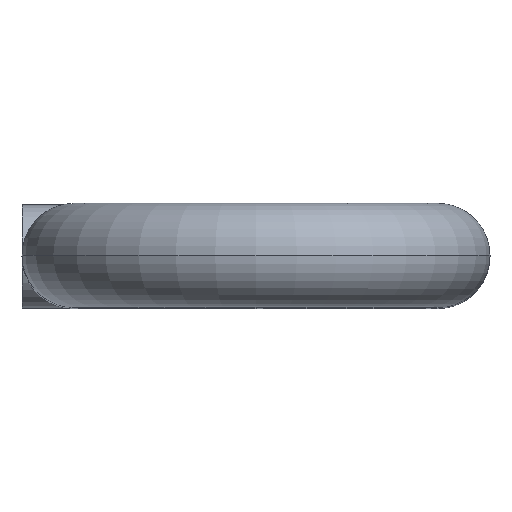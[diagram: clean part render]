
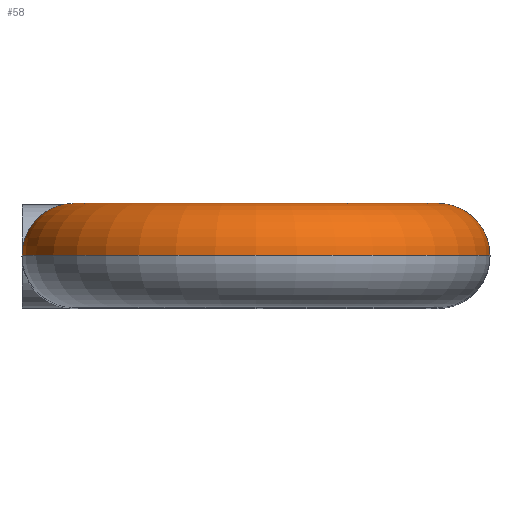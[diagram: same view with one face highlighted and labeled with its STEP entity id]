
A CAD part, top view. The second image highlights one B-rep face of the part: STEP entity #58.
In plain terms, the highlighted toroidal (fillet/blend) face has major radius 1.75 mm and minor radius 0.5 mm.
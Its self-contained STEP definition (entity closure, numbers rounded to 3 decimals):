
#58=ADVANCED_FACE('',(#79),#80,.T.);
#79=FACE_OUTER_BOUND('',#106,.T.);
#80=TOROIDAL_SURFACE('',#107,1.75,0.5);
#106=EDGE_LOOP('',(#217,#218,#219,#220,#221,#222));
#107=AXIS2_PLACEMENT_3D('',#223,#224,#225);
#217=ORIENTED_EDGE('',*,*,#256,.T.);
#218=ORIENTED_EDGE('',*,*,#274,.T.);
#219=ORIENTED_EDGE('',*,*,#270,.T.);
#220=ORIENTED_EDGE('',*,*,#259,.T.);
#221=ORIENTED_EDGE('',*,*,#268,.F.);
#222=ORIENTED_EDGE('',*,*,#275,.F.);
#223=CARTESIAN_POINT('',(165.995,18.496,20.25));
#224=DIRECTION('',(0.,1.0,0.));
#225=DIRECTION('',(1.0,0.,0.));
#256=EDGE_CURVE('',#286,#287,#288,.T.);
#259=EDGE_CURVE('',#293,#291,#294,.T.);
#268=EDGE_CURVE('',#307,#291,#309,.T.);
#270=EDGE_CURVE('',#311,#293,#312,.T.);
#274=EDGE_CURVE('',#287,#311,#316,.T.);
#275=EDGE_CURVE('',#286,#307,#317,.T.);
#286=VERTEX_POINT('',#328);
#287=VERTEX_POINT('',#329);
#288=CIRCLE('',#330,2.25);
#291=VERTEX_POINT('',#333);
#293=VERTEX_POINT('',#335);
#294=CIRCLE('',#336,1.25);
#307=VERTEX_POINT('',#352);
#309=CIRCLE('',#355,0.5);
#311=VERTEX_POINT('',#358);
#312=CIRCLE('',#359,0.5);
#316=CIRCLE('',#364,0.5);
#317=CIRCLE('',#365,0.5);
#328=CARTESIAN_POINT('',(163.745,18.496,20.25));
#329=CARTESIAN_POINT('',(168.245,18.496,20.25));
#330=AXIS2_PLACEMENT_3D('',#380,#381,#382);
#333=CARTESIAN_POINT('',(164.745,18.496,20.25));
#335=CARTESIAN_POINT('',(167.245,18.496,20.25));
#336=AXIS2_PLACEMENT_3D('',#389,#390,#391);
#352=CARTESIAN_POINT('',(164.245,18.996,20.25));
#355=AXIS2_PLACEMENT_3D('',#408,#409,#410);
#358=CARTESIAN_POINT('',(167.745,18.996,20.25));
#359=AXIS2_PLACEMENT_3D('',#412,#413,#414);
#364=AXIS2_PLACEMENT_3D('',#422,#423,#424);
#365=AXIS2_PLACEMENT_3D('',#425,#426,#427);
#380=CARTESIAN_POINT('',(165.995,18.496,20.25));
#381=DIRECTION('',(0.,1.0,0.));
#382=DIRECTION('',(0.0,0.,1.0));
#389=CARTESIAN_POINT('',(165.995,18.496,20.25));
#390=DIRECTION('',(0.,-1.0,0.));
#391=DIRECTION('',(-0.0,0.,1.0));
#408=CARTESIAN_POINT('',(164.245,18.496,20.25));
#409=DIRECTION('',(0.,0.,-1.0));
#410=DIRECTION('',(0.,-1.0,0.));
#412=CARTESIAN_POINT('',(167.745,18.496,20.25));
#413=DIRECTION('',(0.,0.,1.0));
#414=DIRECTION('',(0.,-1.0,0.));
#422=CARTESIAN_POINT('',(167.745,18.496,20.25));
#423=DIRECTION('',(0.,0.,1.0));
#424=DIRECTION('',(0.,-1.0,0.));
#425=CARTESIAN_POINT('',(164.245,18.496,20.25));
#426=DIRECTION('',(0.,0.,-1.0));
#427=DIRECTION('',(0.,-1.0,0.));
